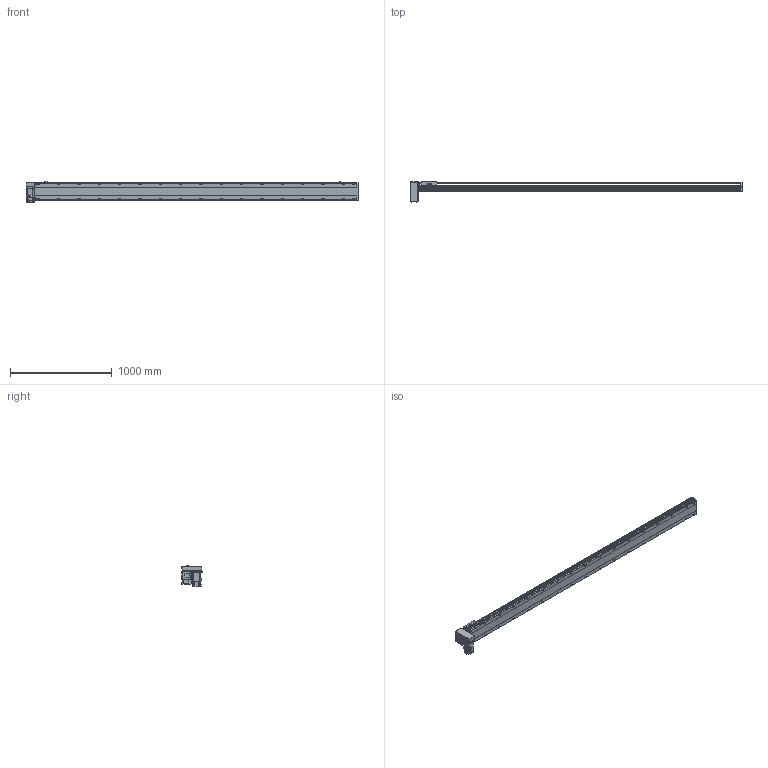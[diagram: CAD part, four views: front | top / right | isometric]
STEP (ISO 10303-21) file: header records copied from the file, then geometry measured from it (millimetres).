
FILE_DESCRIPTION(/* description */ ('STEP AP214'),/* implementation_level */ '2;1');
FILE_NAME(/* name */ 'PBS170-P40-S2900-RD-T75-C1-N(0)',/* time_stamp */ '2022-06-08T07:38:23+02:00',/* author */ ('License CC BY-ND 4.0'),/* organization */ ('CADENAS'),/* preprocessor_version */ 'ST-DEVELOPER v18.102',/* originating_system */ 'PARTsolutions',/* authorisation */ ' ');
FILE_SCHEMA (('AUTOMOTIVE_DESIGN {1 0 10303 214 3 1 1}'));
Length unit declared in the file: millimetre
Products named in the file (7): PBS170-P40-S2900-RD-T75-C1-N(0); PBS170_sensor; PBS170_plant; PBS170_sliser; T75-p1; PBS170T-RD_motors; PBS170-S2900()_body
Assembly tree (8 placements, depth 2):
  PBS170-P40-S2900-RD-T75-C1-N(0)
    PBS170_sensor  x3
    PBS170_plant
    PBS170_sliser
    T75-p1
    PBS170T-RD_motors
    PBS170-S2900()_body
Bounding box: 3263 x 201 x 205.3 mm (x, y, z)
Volume: 24527411.8 mm3; surface area: 3073959.6 mm2
Topology: 8 solids, 8 shells, 1226 faces, 3235 edges, 2108 vertices
Faces by surface type: plane 741, cylinder 411, cone 64, sphere 8, torus 2
Full cylindrical faces by diameter (mm): 3.242 x4, 4 x2, 4.4 x4, 4.5 x6, 4.917 x4, 6 x9, 6.647 x42, 7 x2, 7.5 x4, 8 x8, 8.5 x34, 10 x4, 10.5 x34, 11 x2, 30 x2, 40 x1, 70 x1
Entity records: 35240 total; most frequent: CARTESIAN_POINT 6721, DIRECTION 5930, ORIENTED_EDGE 5568, EDGE_CURVE 2784, AXIS2_PLACEMENT_3D 2107, VERTEX_POINT 1946, LINE 1716, VECTOR 1716
